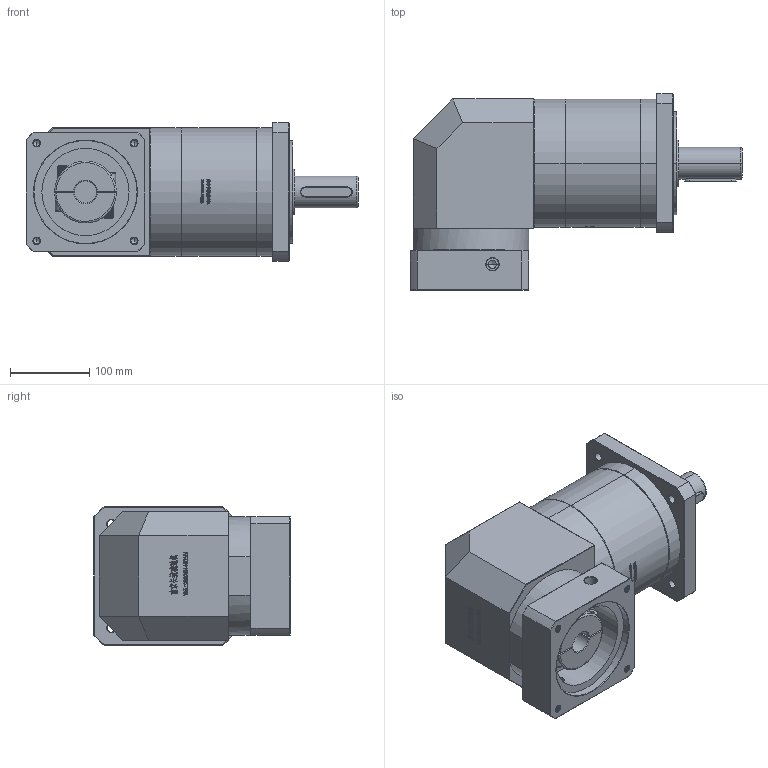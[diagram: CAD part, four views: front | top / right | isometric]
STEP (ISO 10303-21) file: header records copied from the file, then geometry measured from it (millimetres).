
FILE_DESCRIPTION (( 'STEP AP214' ), '1' );
FILE_NAME ('ZFR160A-D40-L3-28-130-174-M10.step', '2023-03-22T11:45:41', ( '' ), ( '' ), 'SwSTEP 2.0', 'SolidWorks 2016', '' );
FILE_SCHEMA (( 'AUTOMOTIVE_DESIGN' ));
Length unit declared in the file: millimetre
Products named in the file (1): ZFR160A-D40-L3-28-130-174-M10
Bounding box: 418.7 x 247.5 x 175 mm (x, y, z)
Volume: 8276061 mm3; surface area: 482035.1 mm2
Topology: 6 solids, 6 shells, 2522 faces, 6628 edges, 4259 vertices
Faces by surface type: plane 1275, bspline 501, cylinder 413, cone 311, torus 22
Entity records: 143912 total; most frequent: CARTESIAN_POINT 58369, ORIENTED_EDGE 13196, DIRECTION 10036, EDGE_CURVE 6598, VERTEX_POINT 4259, VECTOR 4158, LINE 4158, AXIS2_PLACEMENT_3D 2939
